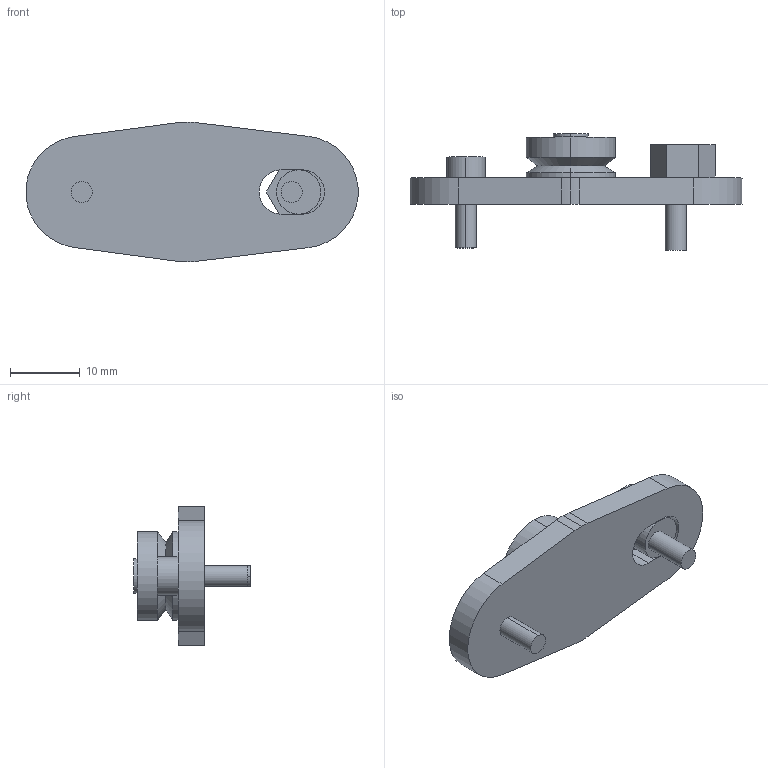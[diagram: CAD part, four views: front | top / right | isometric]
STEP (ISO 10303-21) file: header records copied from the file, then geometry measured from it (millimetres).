
FILE_DESCRIPTION(('STEP AP203'),'1');
FILE_NAME('bhj_13_e_ns.stp','2021-09-29T05:28:39',('TraceParts'),('TraceParts S.A.'),'Spatial InterOp 3D',' ',' ');
FILE_SCHEMA(('CONFIG_CONTROL_DESIGN'));
Length unit declared in the file: millimetre
Products named in the file (1): 1
Bounding box: 47.44 x 16.7 x 20 mm (x, y, z)
Volume: 3905.2 mm3; surface area: 2792.8 mm2
Topology: 2 solids, 2 shells, 72 faces, 168 edges, 110 vertices
Faces by surface type: plane 44, cylinder 24, cone 4
Entity records: 2106 total; most frequent: DIRECTION 366, CARTESIAN_POINT 352, ORIENTED_EDGE 336, EDGE_CURVE 168, AXIS2_PLACEMENT_3D 124, LINE 118, VECTOR 118, VERTEX_POINT 110
